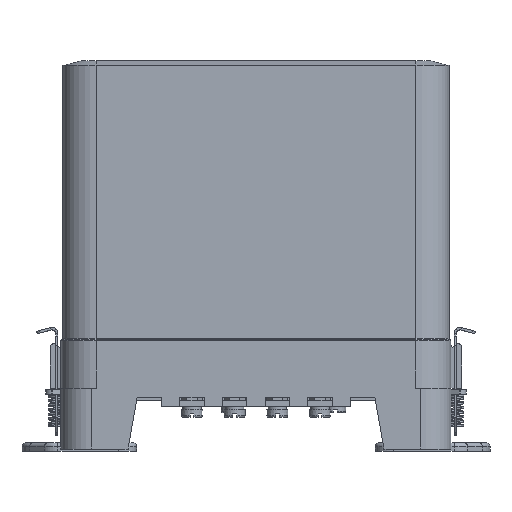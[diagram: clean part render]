
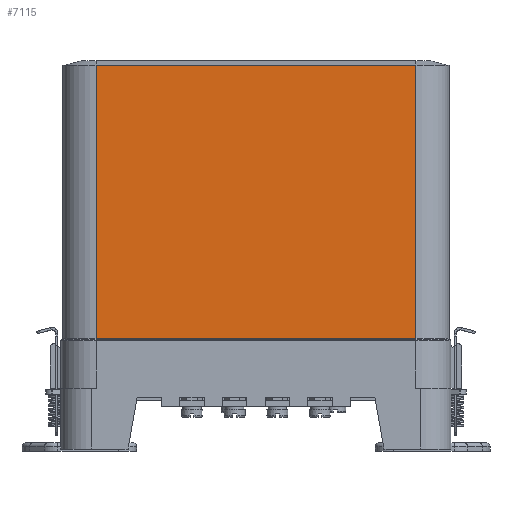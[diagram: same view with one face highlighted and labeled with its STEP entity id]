
A CAD part, left-side view. The second image highlights one B-rep face of the part: STEP entity #7115.
In plain terms, the highlighted planar face has unit normal (-1, 0, 0).
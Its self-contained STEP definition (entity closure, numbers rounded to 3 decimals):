
#7115=ADVANCED_FACE('',(#17771),#17773,.T.);
#17771=FACE_BOUND('',#17772,.T.);
#17772=EDGE_LOOP('',(#33598,#33599,#33600,#33601));
#17773=PLANE('',#17774);
#17774=AXIS2_PLACEMENT_3D('',#17775,#17776,#17777);
#17775=CARTESIAN_POINT('',(-46.5,52.5,20.));
#17776=DIRECTION('',(-1.,0.,0.));
#17777=DIRECTION('',(0.,-1.,0.));
#33598=ORIENTED_EDGE('',*,*,#38136,.T.);
#33599=ORIENTED_EDGE('',*,*,#38137,.F.);
#33600=ORIENTED_EDGE('',*,*,#37526,.F.);
#33601=ORIENTED_EDGE('',*,*,#38138,.T.);
#37526=EDGE_CURVE('',#41976,#41977,#41978,.F.);
#38136=EDGE_CURVE('',#42989,#42990,#42991,.F.);
#38137=EDGE_CURVE('',#41977,#42990,#42992,.T.);
#38138=EDGE_CURVE('',#41976,#42989,#42993,.T.);
#41976=VERTEX_POINT('',#51476);
#41977=VERTEX_POINT('',#51477);
#41978=LINE('',#51478,#51479);
#42989=VERTEX_POINT('',#54181);
#42990=VERTEX_POINT('',#54182);
#42991=LINE('',#54183,#54184);
#42992=LINE('',#54186,#54187);
#42993=LINE('',#54189,#54190);
#51476=CARTESIAN_POINT('',(-46.5,-52.5,36.366));
#51477=CARTESIAN_POINT('',(-46.5,52.5,36.366));
#51478=CARTESIAN_POINT('',(-46.5,52.5,36.366));
#51479=VECTOR('',#51480,1.);
#51480=DIRECTION('',(0.,-1.,0.));
#54181=CARTESIAN_POINT('',(-46.5,-52.5,126.));
#54182=CARTESIAN_POINT('',(-46.5,52.5,126.));
#54183=CARTESIAN_POINT('',(-46.5,52.5,126.));
#54184=VECTOR('',#54185,1.);
#54185=DIRECTION('',(0.,-1.,0.));
#54186=CARTESIAN_POINT('',(-46.5,52.5,36.366));
#54187=VECTOR('',#54188,1.);
#54188=DIRECTION('',(0.,0.,1.));
#54189=CARTESIAN_POINT('',(-46.5,-52.5,36.366));
#54190=VECTOR('',#54191,1.);
#54191=DIRECTION('',(0.,0.,1.));
